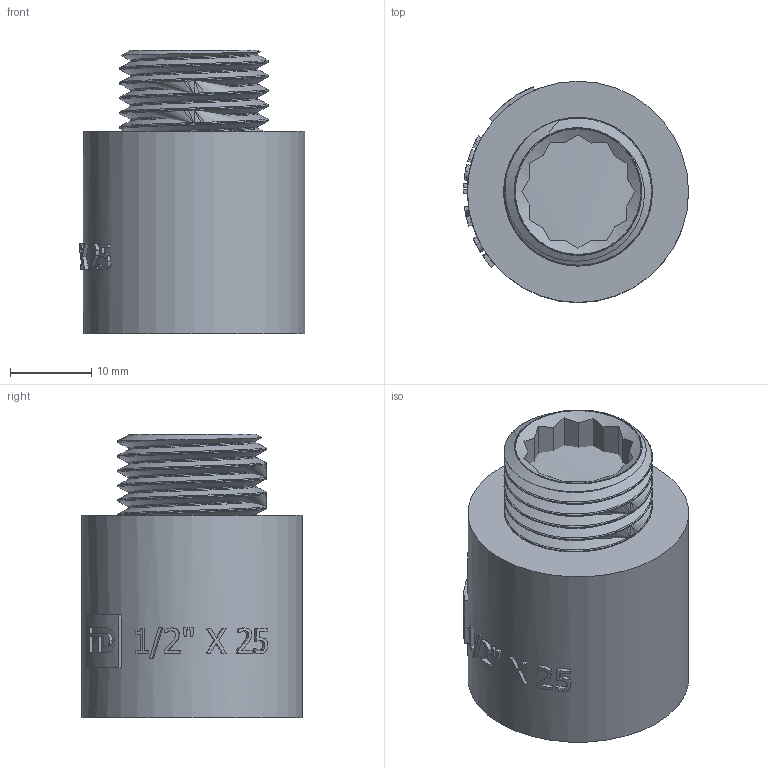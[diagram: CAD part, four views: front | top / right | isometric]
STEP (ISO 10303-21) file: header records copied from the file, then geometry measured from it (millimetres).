
FILE_DESCRIPTION(/* description */ (''),/* implementation_level */ '2;1');
FILE_NAME(/* name */ 'C:\Users\Doom\Desktop\Фадотех\Резьба\UD25 18.03.2020\UD25 18.03.2020.stp',/* time_stamp */ '2022-01-22T11:17:13+02:00',/* author */ ('Doom'),/* organization */ (''),/* preprocessor_version */ 'ST-DEVELOPER v18',/* originating_system */ 'Autodesk Inventor 2020',/* authorisation */ '');
FILE_SCHEMA (('AUTOMOTIVE_DESIGN { 1 0 10303 214 3 1 1 }'));
Length unit declared in the file: millimetre
Products named in the file (1): UD25 18.03.2020
Bounding box: 27.8 x 27.3 x 35 mm (x, y, z)
Volume: 9677.5 mm3; surface area: 10835.2 mm2
Topology: 3 solids, 3 shells, 198 faces, 544 edges, 364 vertices
Faces by surface type: plane 89, bspline 67, cylinder 39, cone 3
Full cylindrical faces by diameter (mm): 15.649 x2, 16.858 x1, 18.26 x11, 18.34 x6, 20.95 x2, 21.5 x1, 27.3 x1
Entity records: 16082 total; most frequent: CARTESIAN_POINT 11599, ORIENTED_EDGE 1080, DIRECTION 677, EDGE_CURVE 540, VERTEX_POINT 362, AXIS2_PLACEMENT_3D 235, EDGE_LOOP 218, LINE 207
